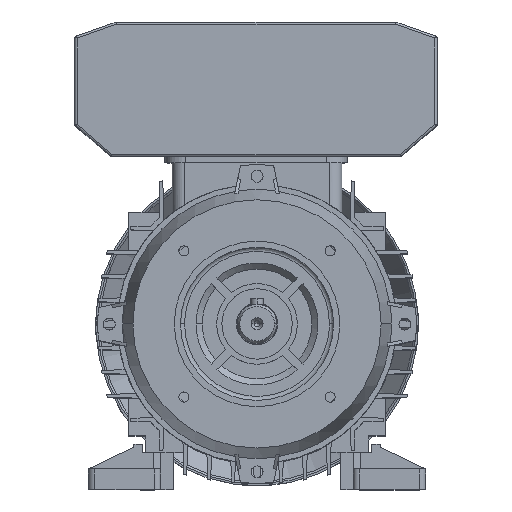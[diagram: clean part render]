
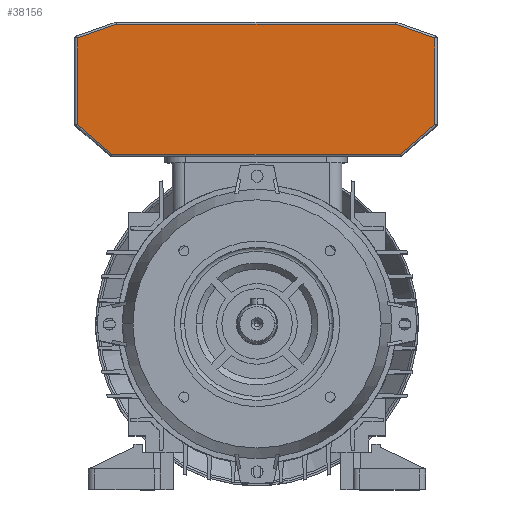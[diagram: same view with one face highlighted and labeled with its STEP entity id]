
A CAD part, top view. The second image highlights one B-rep face of the part: STEP entity #38156.
In plain terms, the highlighted planar face has unit normal (0, 0, 1).
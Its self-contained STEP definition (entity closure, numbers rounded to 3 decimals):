
#14730 = EDGE_LOOP ( 'NONE', ( #40610, #40611, #40612, #40613, #40614, #40615, #40616, #40617 ) ) ;
#32649 = AXIS2_PLACEMENT_3D ( 'NONE', #34472, #34481, #34482 ) ;
#34472 = CARTESIAN_POINT ( 'NONE',  ( 0., -60., 75. ) ) ;
#34479 = PLANE ( 'NONE',  #32649 ) ;
#34481 = DIRECTION ( 'NONE',  ( 0., 0., 1. ) ) ;
#34482 = DIRECTION ( 'NONE',  ( 1., 0., 0. ) ) ;
#34940 = FACE_OUTER_BOUND ( 'NONE', #14730, .T. ) ;
#38156 = ADVANCED_FACE ( 'NONE', ( #34940 ), #34479, .T. ) ;
#40610 = ORIENTED_EDGE ( 'NONE', *, *, #52929, .T. ) ;
#40611 = ORIENTED_EDGE ( 'NONE', *, *, #52930, .T. ) ;
#40612 = ORIENTED_EDGE ( 'NONE', *, *, #52931, .T. ) ;
#40613 = ORIENTED_EDGE ( 'NONE', *, *, #52932, .T. ) ;
#40614 = ORIENTED_EDGE ( 'NONE', *, *, #52933, .T. ) ;
#40615 = ORIENTED_EDGE ( 'NONE', *, *, #52934, .T. ) ;
#40616 = ORIENTED_EDGE ( 'NONE', *, *, #52935, .T. ) ;
#40617 = ORIENTED_EDGE ( 'NONE', *, *, #52936, .T. ) ;
#44391 = CARTESIAN_POINT ( 'NONE',  ( -86.5, 15.46, 75. ) ) ;
#44392 = CARTESIAN_POINT ( 'NONE',  ( -69.63, 1., 75. ) ) ;
#44397 = CARTESIAN_POINT ( 'NONE',  ( 69.63, 1., 75. ) ) ;
#44398 = CARTESIAN_POINT ( 'NONE',  ( 86.5, 15.46, 75. ) ) ;
#44399 = CARTESIAN_POINT ( 'NONE',  ( 86.5, 57.291, 75. ) ) ;
#44400 = CARTESIAN_POINT ( 'NONE',  ( 67.33, 64., 75. ) ) ;
#44401 = CARTESIAN_POINT ( 'NONE',  ( -67.33, 64., 75. ) ) ;
#44402 = CARTESIAN_POINT ( 'NONE',  ( -86.5, 57.291, 75. ) ) ;
#48425 = LINE ( 'NONE', #50406, #48436 ) ;
#48431 = LINE ( 'NONE', #50421, #48434 ) ;
#48434 = VECTOR ( 'NONE', #50423, 1000. ) ;
#48435 = LINE ( 'NONE', #50425, #48438 ) ;
#48436 = VECTOR ( 'NONE', #50424, 1000. ) ;
#48437 = LINE ( 'NONE', #50427, #48440 ) ;
#48438 = VECTOR ( 'NONE', #50426, 1000. ) ;
#48439 = LINE ( 'NONE', #50429, #48442 ) ;
#48440 = VECTOR ( 'NONE', #50428, 1000. ) ;
#48441 = LINE ( 'NONE', #50431, #48444 ) ;
#48442 = VECTOR ( 'NONE', #50430, 1000. ) ;
#48443 = LINE ( 'NONE', #50433, #48446 ) ;
#48444 = VECTOR ( 'NONE', #50432, 1000. ) ;
#48445 = LINE ( 'NONE', #50435, #48448 ) ;
#48446 = VECTOR ( 'NONE', #50434, 1000. ) ;
#48448 = VECTOR ( 'NONE', #50436, 1000. ) ;
#50406 = CARTESIAN_POINT ( 'NONE',  ( 70., 1., 75. ) ) ;
#50421 = CARTESIAN_POINT ( 'NONE',  ( -69.349, 0.759, 75. ) ) ;
#50423 = DIRECTION ( 'NONE',  ( 0.759, -0.651, 0. ) ) ;
#50424 = DIRECTION ( 'NONE',  ( 1., 0., 0. ) ) ;
#50425 = CARTESIAN_POINT ( 'NONE',  ( 86.849, 15.759, 75. ) ) ;
#50426 = DIRECTION ( 'NONE',  ( 0.759, 0.651, 0. ) ) ;
#50427 = CARTESIAN_POINT ( 'NONE',  ( 86.5, 58., 75. ) ) ;
#50428 = DIRECTION ( 'NONE',  ( 0., 1., 0. ) ) ;
#50429 = CARTESIAN_POINT ( 'NONE',  ( 67.17, 64.056, 75. ) ) ;
#50430 = DIRECTION ( 'NONE',  ( -0.944, 0.33, 0. ) ) ;
#50431 = CARTESIAN_POINT ( 'NONE',  ( -67.5, 64., 75. ) ) ;
#50432 = DIRECTION ( 'NONE',  ( -1., 0., 0. ) ) ;
#50433 = CARTESIAN_POINT ( 'NONE',  ( -87.17, 57.056, 75. ) ) ;
#50434 = DIRECTION ( 'NONE',  ( -0.944, -0.33, 0. ) ) ;
#50435 = CARTESIAN_POINT ( 'NONE',  ( -86.5, 15., 75. ) ) ;
#50436 = DIRECTION ( 'NONE',  ( 0., -1., 0. ) ) ;
#51513 = VERTEX_POINT ( 'NONE', #44391 ) ;
#51514 = VERTEX_POINT ( 'NONE', #44392 ) ;
#51519 = VERTEX_POINT ( 'NONE', #44397 ) ;
#51520 = VERTEX_POINT ( 'NONE', #44398 ) ;
#51521 = VERTEX_POINT ( 'NONE', #44399 ) ;
#51522 = VERTEX_POINT ( 'NONE', #44400 ) ;
#51523 = VERTEX_POINT ( 'NONE', #44401 ) ;
#51524 = VERTEX_POINT ( 'NONE', #44402 ) ;
#52929 = EDGE_CURVE ( 'NONE', #51513, #51514, #48431, .T. ) ;
#52930 = EDGE_CURVE ( 'NONE', #51514, #51519, #48425, .T. ) ;
#52931 = EDGE_CURVE ( 'NONE', #51519, #51520, #48435, .T. ) ;
#52932 = EDGE_CURVE ( 'NONE', #51520, #51521, #48437, .T. ) ;
#52933 = EDGE_CURVE ( 'NONE', #51521, #51522, #48439, .T. ) ;
#52934 = EDGE_CURVE ( 'NONE', #51522, #51523, #48441, .T. ) ;
#52935 = EDGE_CURVE ( 'NONE', #51523, #51524, #48443, .T. ) ;
#52936 = EDGE_CURVE ( 'NONE', #51524, #51513, #48445, .T. ) ;
